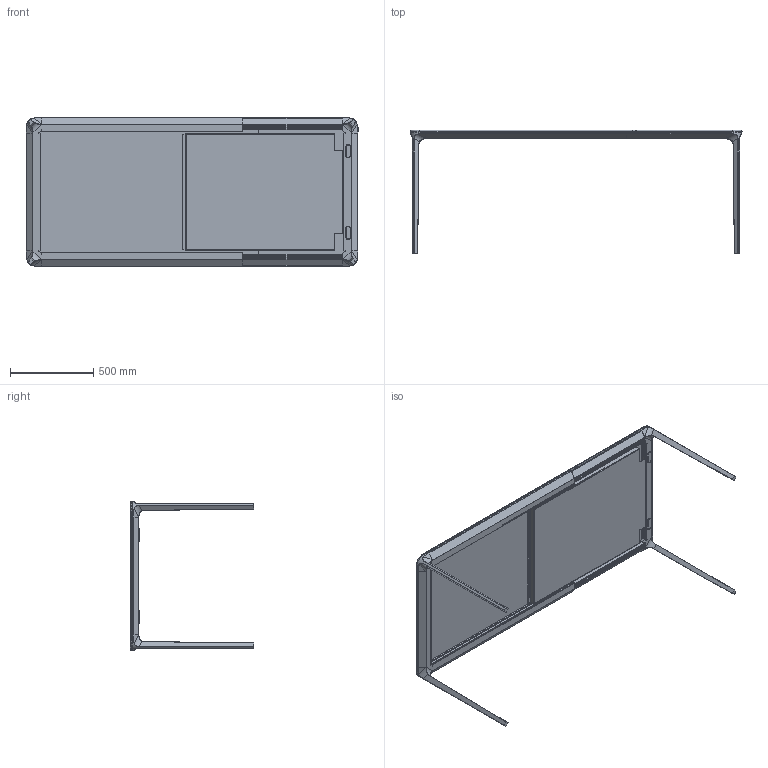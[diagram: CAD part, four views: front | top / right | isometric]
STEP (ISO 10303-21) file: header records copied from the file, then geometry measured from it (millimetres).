
FILE_DESCRIPTION((''),'2;1');
FILE_NAME('C:\AutodeskVault\AreaLavoro\Progetti\SoVeT Italia\1. Tavoli_Dining tables\Slim\Slim Extensible\Web file\Slim Extensible Web\P1689 Contorno semplificato.stp','2012-03-13T16:59:39',('Gianluca'),('So.Ve.T. s.r.l.'),'Autodesk Inventor 2011','Autodesk Inventor 2011','IL PROGETTO E'' DI ESCLUSIVA PROPRIETA'' DELLA SO.VE.T. srl. E'' VIETATA OGNI RIPRODUZIONE TOTALE O PARZIALE E QUALSIASI UTILIZZO NON AUTORIZZATO.');
FILE_SCHEMA(('AUTOMOTIVE_DESIGN { 1 0 10303 214 1 1 1 1 }'));
Length unit declared in the file: millimetre
Products named in the file (1): P1689 Contorno semplificato
Bounding box: 1996 x 741 x 896 mm (x, y, z)
Volume: 34351793.9 mm3; surface area: 6775018.5 mm2
Topology: 2 solids, 2 shells, 504 faces, 1368 edges, 862 vertices
Faces by surface type: plane 232, cylinder 214, bspline 36, torus 16, cone 6
Entity records: 17762 total; most frequent: CARTESIAN_POINT 4434, ORIENTED_EDGE 2748, DIRECTION 2733, EDGE_CURVE 1374, AXIS2_PLACEMENT_3D 958, VERTEX_POINT 862, VECTOR 817, LINE 817
